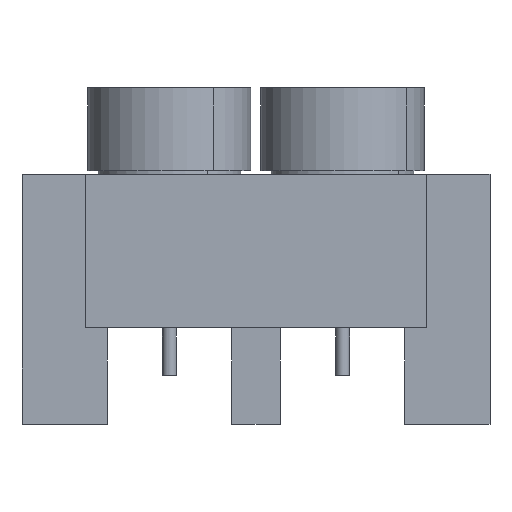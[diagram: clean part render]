
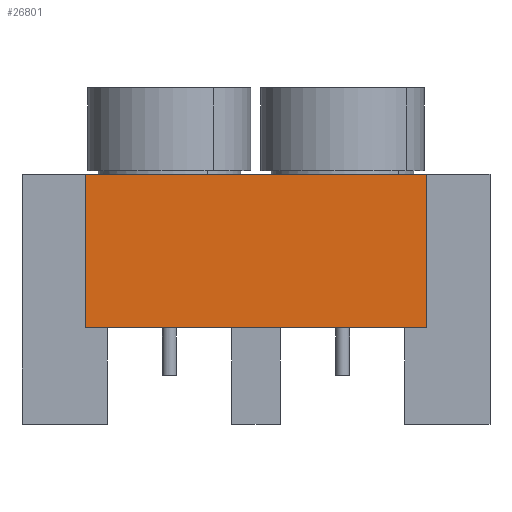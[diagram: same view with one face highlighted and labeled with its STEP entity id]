
A CAD part, front view. The second image highlights one B-rep face of the part: STEP entity #26801.
In plain terms, the highlighted planar face has unit normal (0, -1, 0).
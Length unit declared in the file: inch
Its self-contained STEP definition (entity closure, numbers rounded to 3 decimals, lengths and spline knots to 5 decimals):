
#1582 = VERTEX_POINT ( 'NONE', #5379 ) ;
#2405 = ORIENTED_EDGE ( 'NONE', *, *, #22852, .F. ) ;
#3073 = LINE ( 'NONE', #8101, #8142 ) ;
#3249 = CARTESIAN_POINT ( 'NONE',  ( -0.14, 0., 0. ) ) ;
#3258 = DIRECTION ( 'NONE',  ( -1., 0., 0. ) ) ;
#3927 = EDGE_CURVE ( 'NONE', #12447, #14481, #27730, .T. ) ;
#4328 = DIRECTION ( 'NONE',  ( 0., 0., 1. ) ) ;
#5379 = CARTESIAN_POINT ( 'NONE',  ( 0.14, 0., -0.126 ) ) ;
#5522 = VECTOR ( 'NONE', #25040, 39.37008 ) ;
#7861 = EDGE_CURVE ( 'NONE', #1582, #14481, #19973, .T. ) ;
#8101 = CARTESIAN_POINT ( 'NONE',  ( -0.14, 0., -0.205 ) ) ;
#8142 = VECTOR ( 'NONE', #23085, 39.37008 ) ;
#8484 = VECTOR ( 'NONE', #4328, 39.37008 ) ;
#9344 = CARTESIAN_POINT ( 'NONE',  ( -0.14, 0., -0.126 ) ) ;
#9981 = PLANE ( 'NONE',  #21156 ) ;
#10151 = DIRECTION ( 'NONE',  ( 0., -1., 0. ) ) ;
#11360 = CARTESIAN_POINT ( 'NONE',  ( 0.14, 0., 0. ) ) ;
#11629 = LINE ( 'NONE', #16215, #23065 ) ;
#12038 = ORIENTED_EDGE ( 'NONE', *, *, #3927, .F. ) ;
#12447 = VERTEX_POINT ( 'NONE', #3249 ) ;
#13577 = VERTEX_POINT ( 'NONE', #9344 ) ;
#14481 = VERTEX_POINT ( 'NONE', #11360 ) ;
#16215 = CARTESIAN_POINT ( 'NONE',  ( -0.14, 0., -0.126 ) ) ;
#17299 = CARTESIAN_POINT ( 'NONE',  ( 0.14, 0., -0.205 ) ) ;
#19973 = LINE ( 'NONE', #17299, #8484 ) ;
#20668 = CARTESIAN_POINT ( 'NONE',  ( -0.14, 0., 0. ) ) ;
#21156 = AXIS2_PLACEMENT_3D ( 'NONE', #23052, #10151, #25189 ) ;
#21844 = ORIENTED_EDGE ( 'NONE', *, *, #7861, .T. ) ;
#22852 = EDGE_CURVE ( 'NONE', #1582, #13577, #11629, .T. ) ;
#23052 = CARTESIAN_POINT ( 'NONE',  ( -0.14, 0., -0.205 ) ) ;
#23065 = VECTOR ( 'NONE', #3258, 39.37008 ) ;
#23085 = DIRECTION ( 'NONE',  ( 0., 0., 1. ) ) ;
#24082 = EDGE_LOOP ( 'NONE', ( #2405, #21844, #12038, #24717 ) ) ;
#24717 = ORIENTED_EDGE ( 'NONE', *, *, #27851, .F. ) ;
#25040 = DIRECTION ( 'NONE',  ( 1., 0., 0. ) ) ;
#25189 = DIRECTION ( 'NONE',  ( 0., 0., -1. ) ) ;
#26472 = FACE_OUTER_BOUND ( 'NONE', #24082, .T. ) ;
#26801 = ADVANCED_FACE ( 'NONE', ( #26472 ), #9981, .T. ) ;
#27730 = LINE ( 'NONE', #20668, #5522 ) ;
#27851 = EDGE_CURVE ( 'NONE', #13577, #12447, #3073, .T. ) ;
